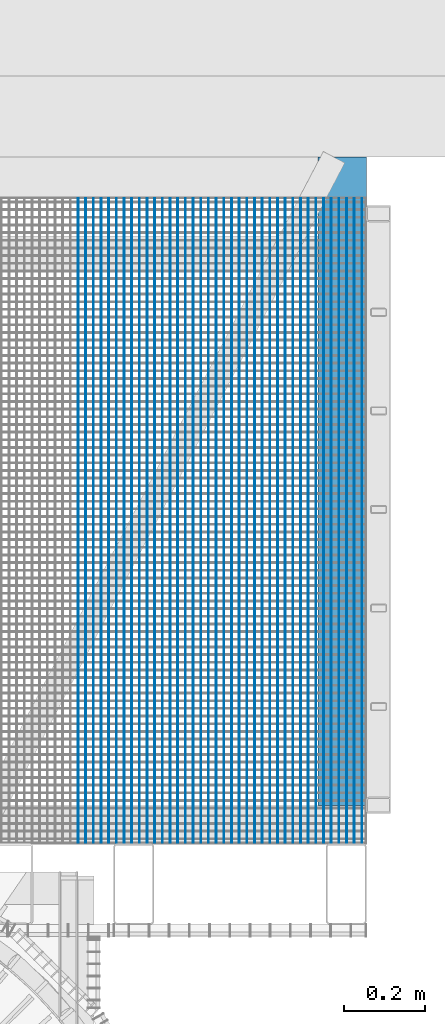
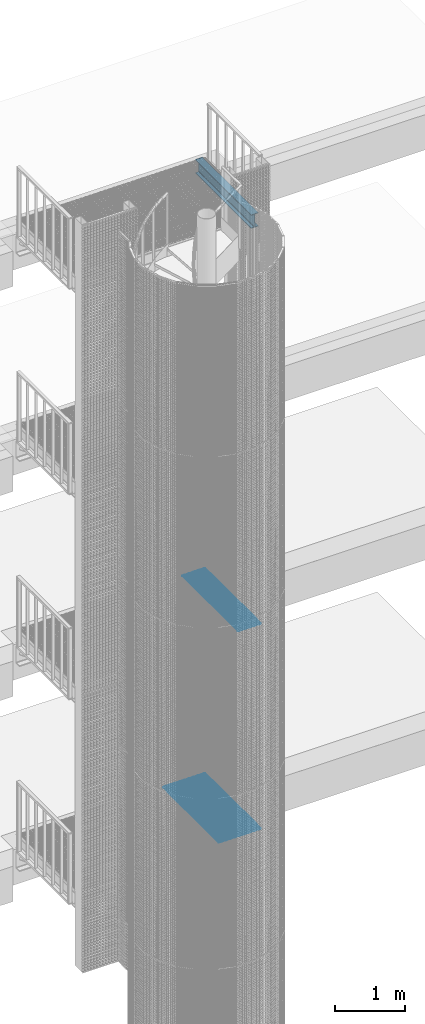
# One storey, part 102 of 1183: 60 beams, 3 elements without a shape of their own.
"""IFC2X3 building model written with IfcOpenShell, lengths in millimetres."""

from ifc_helpers import new_model, si_unit, frame, origin_with_axes, origin_2d_with_axis, place, context, subcontext, project, spatial, rectangle, i_section, extrude, material, type_object, element, aggregate, save


model = new_model("IFC2X3")

# Units and contexts
model_context = context("Model", 3, precision=1e-05, world=origin_with_axes())
body_context = subcontext(model_context, "Body", "Model", "MODEL_VIEW")
ifc_project = project(units=[si_unit("LENGTHUNIT", "METRE", prefix="MILLI"), si_unit("AREAUNIT", "SQUARE_METRE"), si_unit("VOLUMEUNIT", "CUBIC_METRE"), si_unit("MASSUNIT", "GRAM", prefix="KILO"), si_unit("TIMEUNIT", "SECOND"), si_unit("PLANEANGLEUNIT", "RADIAN"), si_unit("SOLIDANGLEUNIT", "STERADIAN"), si_unit("THERMODYNAMICTEMPERATUREUNIT", "DEGREE_CELSIUS"), si_unit("LUMINOUSINTENSITYUNIT", "LUMEN")], contexts=[model_context])

# Site, building, storey
site_placement = place(None, origin_with_axes())
site = spatial("IfcSite", under=ifc_project, at=site_placement, Name="Undefined", CompositionType="ELEMENT")
building_placement = place(site_placement, origin_with_axes())
building = spatial("IfcBuilding", under=site, at=building_placement, Name="Undefined", CompositionType="ELEMENT")
storey_placement = place(building_placement, origin_with_axes())
storey = spatial("IfcBuildingStorey", under=building, at=storey_placement, Name="Undefined", CompositionType="ELEMENT", Elevation=0.0)

# Assembly, beams
assembly_1_placement = place(storey_placement, origin_with_axes())
assembly_1 = element("IfcElementAssembly", 1, at=assembly_1_placement, inside=storey, Name="BORDURE", AssemblyPlace="NOTDEFINED", PredefinedType="NOTDEFINED")
ifc_material = material(Name="STEEL/S235JR")
beam_type_1 = type_object("IfcBeamType", Name="PL2*10", PredefinedType="NOTDEFINED")
beam_1_placement = place(assembly_1_placement, frame((22759.115424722, 1102.00802362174, 10085.0), z_axis=(0.0, 0.0, 1.0), x_axis=(-4.50599999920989e-06, 0.999999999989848, 0.0)))
beam_1 = element("IfcBeam", 2, at=beam_1_placement, type_object=beam_type_1, material=ifc_material, Name="ENTRETOISE", context=body_context, shape_type="SweptSolid", body=[
    extrude(rectangle(XDim=2.0, YDim=10.0, at=origin_2d_with_axis()), frame((1596.0000000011, -1.35186458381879e-18, -7.27595761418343e-12), z_axis=(-1.0, 0.0, 0.0), x_axis=(0.0, -1.0, 0.0)), (0.0, 0.0, 1.0), 1596.0),
])
beam_2_placement = place(assembly_1_placement, frame((22778.1154247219, 1102.00811713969, 10085.0), z_axis=(0.0, 0.0, 1.0), x_axis=(-4.50599999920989e-06, 0.999999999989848, 0.0)))
beam_2 = element("IfcBeam", 3, at=beam_2_placement, type_object=beam_type_1, material=ifc_material, Name="ENTRETOISE", context=body_context, shape_type="SweptSolid", body=[
    extrude(rectangle(XDim=2.0, YDim=10.0, at=origin_2d_with_axis()), frame((1596.0000000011, -1.35186458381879e-18, -7.27595761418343e-12), z_axis=(-1.0, 0.0, 0.0), x_axis=(0.0, -1.0, 0.0)), (0.0, 0.0, 1.0), 1596.0),
])
beam_3_placement = place(assembly_1_placement, frame((22797.1154247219, 1102.00821065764, 10085.0), z_axis=(0.0, 0.0, 1.0), x_axis=(-4.50599999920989e-06, 0.999999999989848, 0.0)))
beam_3 = element("IfcBeam", 4, at=beam_3_placement, type_object=beam_type_1, material=ifc_material, Name="ENTRETOISE", context=body_context, shape_type="SweptSolid", body=[
    extrude(rectangle(XDim=2.0, YDim=10.0, at=origin_2d_with_axis()), frame((1596.0000000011, -1.35186458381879e-18, -7.27595761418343e-12), z_axis=(-1.0, 0.0, 0.0), x_axis=(0.0, -1.0, 0.0)), (0.0, 0.0, 1.0), 1596.0),
])
beam_4_placement = place(assembly_1_placement, frame((22816.1154247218, 1102.00830417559, 10085.0), z_axis=(0.0, 0.0, 1.0), x_axis=(-4.50599999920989e-06, 0.999999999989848, 0.0)))
beam_4 = element("IfcBeam", 5, at=beam_4_placement, type_object=beam_type_1, material=ifc_material, Name="ENTRETOISE", context=body_context, shape_type="SweptSolid", body=[
    extrude(rectangle(XDim=2.0, YDim=10.0, at=origin_2d_with_axis()), frame((1596.0000000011, -1.35186458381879e-18, -7.27595761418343e-12), z_axis=(-1.0, 0.0, 0.0), x_axis=(0.0, -1.0, 0.0)), (0.0, 0.0, 1.0), 1596.0),
])
beam_5_placement = place(assembly_1_placement, frame((22835.1154247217, 1102.00839769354, 10085.0), z_axis=(0.0, 0.0, 1.0), x_axis=(-4.50599999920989e-06, 0.999999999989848, 0.0)))
beam_5 = element("IfcBeam", 6, at=beam_5_placement, type_object=beam_type_1, material=ifc_material, Name="ENTRETOISE", context=body_context, shape_type="SweptSolid", body=[
    extrude(rectangle(XDim=2.0, YDim=10.0, at=origin_2d_with_axis()), frame((1596.0000000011, -1.35186458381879e-18, -7.27595761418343e-12), z_axis=(-1.0, 0.0, 0.0), x_axis=(0.0, -1.0, 0.0)), (0.0, 0.0, 1.0), 1596.0),
])
beam_6_placement = place(assembly_1_placement, frame((22854.1154247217, 1102.00849121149, 10085.0), z_axis=(0.0, 0.0, 1.0), x_axis=(-4.50599999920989e-06, 0.999999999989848, 0.0)))
beam_6 = element("IfcBeam", 7, at=beam_6_placement, type_object=beam_type_1, material=ifc_material, Name="ENTRETOISE", context=body_context, shape_type="SweptSolid", body=[
    extrude(rectangle(XDim=2.0, YDim=10.0, at=origin_2d_with_axis()), frame((1596.0000000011, -1.35186458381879e-18, -7.27595761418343e-12), z_axis=(-1.0, 0.0, 0.0), x_axis=(0.0, -1.0, 0.0)), (0.0, 0.0, 1.0), 1596.0),
])
beam_7_placement = place(assembly_1_placement, frame((22873.1154247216, 1102.00858472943, 10085.0), z_axis=(0.0, 0.0, 1.0), x_axis=(-4.50599999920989e-06, 0.999999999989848, 0.0)))
beam_7 = element("IfcBeam", 8, at=beam_7_placement, type_object=beam_type_1, material=ifc_material, Name="ENTRETOISE", context=body_context, shape_type="SweptSolid", body=[
    extrude(rectangle(XDim=2.0, YDim=10.0, at=origin_2d_with_axis()), frame((1596.0000000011, -1.35186458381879e-18, -7.27595761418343e-12), z_axis=(-1.0, 0.0, 0.0), x_axis=(0.0, -1.0, 0.0)), (0.0, 0.0, 1.0), 1596.0),
])
beam_8_placement = place(assembly_1_placement, frame((22892.1154247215, 1102.00867824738, 10085.0), z_axis=(0.0, 0.0, 1.0), x_axis=(-4.50599999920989e-06, 0.999999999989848, 0.0)))
beam_8 = element("IfcBeam", 9, at=beam_8_placement, type_object=beam_type_1, material=ifc_material, Name="ENTRETOISE", context=body_context, shape_type="SweptSolid", body=[
    extrude(rectangle(XDim=2.0, YDim=10.0, at=origin_2d_with_axis()), frame((1596.0000000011, -1.35186458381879e-18, -7.27595761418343e-12), z_axis=(-1.0, 0.0, 0.0), x_axis=(0.0, -1.0, 0.0)), (0.0, 0.0, 1.0), 1596.0),
])
beam_9_placement = place(assembly_1_placement, frame((22911.1154247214, 1102.00877176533, 10085.0), z_axis=(0.0, 0.0, 1.0), x_axis=(-4.50599999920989e-06, 0.999999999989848, 0.0)))
beam_9 = element("IfcBeam", 10, at=beam_9_placement, type_object=beam_type_1, material=ifc_material, Name="ENTRETOISE", context=body_context, shape_type="SweptSolid", body=[
    extrude(rectangle(XDim=2.0, YDim=10.0, at=origin_2d_with_axis()), frame((1596.0000000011, -1.35186458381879e-18, -7.27595761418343e-12), z_axis=(-1.0, 0.0, 0.0), x_axis=(0.0, -1.0, 0.0)), (0.0, 0.0, 1.0), 1596.0),
])
beam_10_placement = place(assembly_1_placement, frame((22930.1154247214, 1102.00886528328, 10085.0), z_axis=(0.0, 0.0, 1.0), x_axis=(-4.50599999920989e-06, 0.999999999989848, 0.0)))
beam_10 = element("IfcBeam", 11, at=beam_10_placement, type_object=beam_type_1, material=ifc_material, Name="ENTRETOISE", context=body_context, shape_type="SweptSolid", body=[
    extrude(rectangle(XDim=2.0, YDim=10.0, at=origin_2d_with_axis()), frame((1596.0000000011, -1.35186458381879e-18, -7.27595761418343e-12), z_axis=(-1.0, 0.0, 0.0), x_axis=(0.0, -1.0, 0.0)), (0.0, 0.0, 1.0), 1596.0),
])
beam_11_placement = place(assembly_1_placement, frame((22949.1154247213, 1102.00895880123, 10085.0), z_axis=(0.0, 0.0, 1.0), x_axis=(-4.50599999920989e-06, 0.999999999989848, 0.0)))
beam_11 = element("IfcBeam", 12, at=beam_11_placement, type_object=beam_type_1, material=ifc_material, Name="ENTRETOISE", context=body_context, shape_type="SweptSolid", body=[
    extrude(rectangle(XDim=2.0, YDim=10.0, at=origin_2d_with_axis()), frame((1596.0000000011, -1.35186458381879e-18, -7.27595761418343e-12), z_axis=(-1.0, 0.0, 0.0), x_axis=(0.0, -1.0, 0.0)), (0.0, 0.0, 1.0), 1596.0),
])
beam_12_placement = place(assembly_1_placement, frame((22968.1154247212, 1102.00905231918, 10085.0), z_axis=(0.0, 0.0, 1.0), x_axis=(-4.50599999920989e-06, 0.999999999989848, 0.0)))
beam_12 = element("IfcBeam", 13, at=beam_12_placement, type_object=beam_type_1, material=ifc_material, Name="ENTRETOISE", context=body_context, shape_type="SweptSolid", body=[
    extrude(rectangle(XDim=2.0, YDim=10.0, at=origin_2d_with_axis()), frame((1596.0000000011, -1.35186458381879e-18, -7.27595761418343e-12), z_axis=(-1.0, 0.0, 0.0), x_axis=(0.0, -1.0, 0.0)), (0.0, 0.0, 1.0), 1596.0),
])
beam_13_placement = place(assembly_1_placement, frame((22987.1154247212, 1102.00914583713, 10085.0), z_axis=(0.0, 0.0, 1.0), x_axis=(-4.50599999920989e-06, 0.999999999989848, 0.0)))
beam_13 = element("IfcBeam", 14, at=beam_13_placement, type_object=beam_type_1, material=ifc_material, Name="ENTRETOISE", context=body_context, shape_type="SweptSolid", body=[
    extrude(rectangle(XDim=2.0, YDim=10.0, at=origin_2d_with_axis()), frame((1596.0000000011, -1.35186458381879e-18, -7.27595761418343e-12), z_axis=(-1.0, 0.0, 0.0), x_axis=(0.0, -1.0, 0.0)), (0.0, 0.0, 1.0), 1596.0),
])
beam_14_placement = place(assembly_1_placement, frame((23006.1154247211, 1102.00923935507, 10085.0), z_axis=(0.0, 0.0, 1.0), x_axis=(-4.50599999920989e-06, 0.999999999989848, 0.0)))
beam_14 = element("IfcBeam", 15, at=beam_14_placement, type_object=beam_type_1, material=ifc_material, Name="ENTRETOISE", context=body_context, shape_type="SweptSolid", body=[
    extrude(rectangle(XDim=2.0, YDim=10.0, at=origin_2d_with_axis()), frame((1596.0000000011, -1.35186458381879e-18, -7.27595761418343e-12), z_axis=(-1.0, 0.0, 0.0), x_axis=(0.0, -1.0, 0.0)), (0.0, 0.0, 1.0), 1596.0),
])
beam_15_placement = place(assembly_1_placement, frame((23025.115424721, 1102.00933287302, 10085.0), z_axis=(0.0, 0.0, 1.0), x_axis=(-4.50599999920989e-06, 0.999999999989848, 0.0)))
beam_15 = element("IfcBeam", 16, at=beam_15_placement, type_object=beam_type_1, material=ifc_material, Name="ENTRETOISE", context=body_context, shape_type="SweptSolid", body=[
    extrude(rectangle(XDim=2.0, YDim=10.0, at=origin_2d_with_axis()), frame((1596.0000000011, -1.35186458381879e-18, -7.27595761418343e-12), z_axis=(-1.0, 0.0, 0.0), x_axis=(0.0, -1.0, 0.0)), (0.0, 0.0, 1.0), 1596.0),
])
beam_16_placement = place(assembly_1_placement, frame((23044.1154247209, 1102.00942639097, 10085.0), z_axis=(0.0, 0.0, 1.0), x_axis=(-4.50599999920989e-06, 0.999999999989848, 0.0)))
beam_16 = element("IfcBeam", 17, at=beam_16_placement, type_object=beam_type_1, material=ifc_material, Name="ENTRETOISE", context=body_context, shape_type="SweptSolid", body=[
    extrude(rectangle(XDim=2.0, YDim=10.0, at=origin_2d_with_axis()), frame((1596.0000000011, -1.35186458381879e-18, -7.27595761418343e-12), z_axis=(-1.0, 0.0, 0.0), x_axis=(0.0, -1.0, 0.0)), (0.0, 0.0, 1.0), 1596.0),
])
beam_17_placement = place(assembly_1_placement, frame((23063.1154247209, 1102.00951990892, 10085.0), z_axis=(0.0, 0.0, 1.0), x_axis=(-4.50599999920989e-06, 0.999999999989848, 0.0)))
beam_17 = element("IfcBeam", 18, at=beam_17_placement, type_object=beam_type_1, material=ifc_material, Name="ENTRETOISE", context=body_context, shape_type="SweptSolid", body=[
    extrude(rectangle(XDim=2.0, YDim=10.0, at=origin_2d_with_axis()), frame((1596.0000000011, -1.35186458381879e-18, -7.27595761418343e-12), z_axis=(-1.0, 0.0, 0.0), x_axis=(0.0, -1.0, 0.0)), (0.0, 0.0, 1.0), 1596.0),
])
beam_18_placement = place(assembly_1_placement, frame((23082.1154247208, 1102.00961342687, 10085.0), z_axis=(0.0, 0.0, 1.0), x_axis=(-4.50599999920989e-06, 0.999999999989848, 0.0)))
beam_18 = element("IfcBeam", 19, at=beam_18_placement, type_object=beam_type_1, material=ifc_material, Name="ENTRETOISE", context=body_context, shape_type="SweptSolid", body=[
    extrude(rectangle(XDim=2.0, YDim=10.0, at=origin_2d_with_axis()), frame((1596.0000000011, -1.35186458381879e-18, -7.27595761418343e-12), z_axis=(-1.0, 0.0, 0.0), x_axis=(0.0, -1.0, 0.0)), (0.0, 0.0, 1.0), 1596.0),
])
beam_19_placement = place(assembly_1_placement, frame((23101.1154247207, 1102.00970694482, 10085.0), z_axis=(0.0, 0.0, 1.0), x_axis=(-4.50599999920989e-06, 0.999999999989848, 0.0)))
beam_19 = element("IfcBeam", 20, at=beam_19_placement, type_object=beam_type_1, material=ifc_material, Name="ENTRETOISE", context=body_context, shape_type="SweptSolid", body=[
    extrude(rectangle(XDim=2.0, YDim=10.0, at=origin_2d_with_axis()), frame((1596.0000000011, -1.35186458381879e-18, -7.27595761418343e-12), z_axis=(-1.0, 0.0, 0.0), x_axis=(0.0, -1.0, 0.0)), (0.0, 0.0, 1.0), 1596.0),
])
beam_20_placement = place(assembly_1_placement, frame((23120.1154247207, 1102.00980046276, 10085.0), z_axis=(0.0, 0.0, 1.0), x_axis=(-4.50599999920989e-06, 0.999999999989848, 0.0)))
beam_20 = element("IfcBeam", 21, at=beam_20_placement, type_object=beam_type_1, material=ifc_material, Name="ENTRETOISE", context=body_context, shape_type="SweptSolid", body=[
    extrude(rectangle(XDim=2.0, YDim=10.0, at=origin_2d_with_axis()), frame((1596.0000000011, -1.35186458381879e-18, -7.27595761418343e-12), z_axis=(-1.0, 0.0, 0.0), x_axis=(0.0, -1.0, 0.0)), (0.0, 0.0, 1.0), 1596.0),
])
beam_21_placement = place(assembly_1_placement, frame((23139.1154247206, 1102.00989398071, 10085.0), z_axis=(0.0, 0.0, 1.0), x_axis=(-4.50599999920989e-06, 0.999999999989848, 0.0)))
beam_21 = element("IfcBeam", 22, at=beam_21_placement, type_object=beam_type_1, material=ifc_material, Name="ENTRETOISE", context=body_context, shape_type="SweptSolid", body=[
    extrude(rectangle(XDim=2.0, YDim=10.0, at=origin_2d_with_axis()), frame((1596.0000000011, -1.35186458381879e-18, -7.27595761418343e-12), z_axis=(-1.0, 0.0, 0.0), x_axis=(0.0, -1.0, 0.0)), (0.0, 0.0, 1.0), 1596.0),
])
aggregate(assembly_1, [beam_1, beam_2, beam_3, beam_4, beam_5, beam_6, beam_7, beam_8, beam_9, beam_10, beam_11, beam_12, beam_13, beam_14, beam_15, beam_16, beam_17, beam_18, beam_19, beam_20, beam_21])

assembly_2_placement = place(storey_placement, origin_with_axes())
assembly_2 = element("IfcElementAssembly", 23, at=assembly_2_placement, inside=storey, Name="BORDURE", AssemblyPlace="NOTDEFINED", PredefinedType="NOTDEFINED")
beam_22_placement = place(assembly_2_placement, frame((22436.1154247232, 1102.00643381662, 6485.0), z_axis=(0.0, 0.0, 1.0), x_axis=(-4.50599999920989e-06, 0.999999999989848, 0.0)))
beam_22 = element("IfcBeam", 24, at=beam_22_placement, type_object=beam_type_1, material=ifc_material, Name="ENTRETOISE", context=body_context, shape_type="SweptSolid", body=[
    extrude(rectangle(XDim=2.0, YDim=10.0, at=origin_2d_with_axis()), frame((1596.0000000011, -1.35186458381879e-18, -7.27595761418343e-12), z_axis=(-1.0, 0.0, 0.0), x_axis=(0.0, -1.0, 0.0)), (0.0, 0.0, 1.0), 1596.0),
])
beam_23_placement = place(assembly_2_placement, frame((22455.1154247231, 1102.00652733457, 6485.0), z_axis=(0.0, 0.0, 1.0), x_axis=(-4.50599999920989e-06, 0.999999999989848, 0.0)))
beam_23 = element("IfcBeam", 25, at=beam_23_placement, type_object=beam_type_1, material=ifc_material, Name="ENTRETOISE", context=body_context, shape_type="SweptSolid", body=[
    extrude(rectangle(XDim=2.0, YDim=10.0, at=origin_2d_with_axis()), frame((1596.0000000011, -1.35186458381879e-18, -7.27595761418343e-12), z_axis=(-1.0, 0.0, 0.0), x_axis=(0.0, -1.0, 0.0)), (0.0, 0.0, 1.0), 1596.0),
])
beam_24_placement = place(assembly_2_placement, frame((22474.1154247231, 1102.00662085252, 6485.0), z_axis=(0.0, 0.0, 1.0), x_axis=(-4.50599999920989e-06, 0.999999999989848, 0.0)))
beam_24 = element("IfcBeam", 26, at=beam_24_placement, type_object=beam_type_1, material=ifc_material, Name="ENTRETOISE", context=body_context, shape_type="SweptSolid", body=[
    extrude(rectangle(XDim=2.0, YDim=10.0, at=origin_2d_with_axis()), frame((1596.0000000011, -1.35186458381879e-18, -7.27595761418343e-12), z_axis=(-1.0, 0.0, 0.0), x_axis=(0.0, -1.0, 0.0)), (0.0, 0.0, 1.0), 1596.0),
])
beam_25_placement = place(assembly_2_placement, frame((22493.115424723, 1102.00671437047, 6485.0), z_axis=(0.0, 0.0, 1.0), x_axis=(-4.50599999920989e-06, 0.999999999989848, 0.0)))
beam_25 = element("IfcBeam", 27, at=beam_25_placement, type_object=beam_type_1, material=ifc_material, Name="ENTRETOISE", context=body_context, shape_type="SweptSolid", body=[
    extrude(rectangle(XDim=2.0, YDim=10.0, at=origin_2d_with_axis()), frame((1596.0000000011, -1.35186458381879e-18, -7.27595761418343e-12), z_axis=(-1.0, 0.0, 0.0), x_axis=(0.0, -1.0, 0.0)), (0.0, 0.0, 1.0), 1596.0),
])
beam_26_placement = place(assembly_2_placement, frame((22512.1154247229, 1102.00680788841, 6485.0), z_axis=(0.0, 0.0, 1.0), x_axis=(-4.50599999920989e-06, 0.999999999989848, 0.0)))
beam_26 = element("IfcBeam", 28, at=beam_26_placement, type_object=beam_type_1, material=ifc_material, Name="ENTRETOISE", context=body_context, shape_type="SweptSolid", body=[
    extrude(rectangle(XDim=2.0, YDim=10.0, at=origin_2d_with_axis()), frame((1596.0000000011, -1.35186458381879e-18, -7.27595761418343e-12), z_axis=(-1.0, 0.0, 0.0), x_axis=(0.0, -1.0, 0.0)), (0.0, 0.0, 1.0), 1596.0),
])
beam_27_placement = place(assembly_2_placement, frame((22531.1154247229, 1102.00690140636, 6485.0), z_axis=(0.0, 0.0, 1.0), x_axis=(-4.50599999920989e-06, 0.999999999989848, 0.0)))
beam_27 = element("IfcBeam", 29, at=beam_27_placement, type_object=beam_type_1, material=ifc_material, Name="ENTRETOISE", context=body_context, shape_type="SweptSolid", body=[
    extrude(rectangle(XDim=2.0, YDim=10.0, at=origin_2d_with_axis()), frame((1596.0000000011, -1.35186458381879e-18, -7.27595761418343e-12), z_axis=(-1.0, 0.0, 0.0), x_axis=(0.0, -1.0, 0.0)), (0.0, 0.0, 1.0), 1596.0),
])
beam_28_placement = place(assembly_2_placement, frame((22550.1154247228, 1102.00699492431, 6485.0), z_axis=(0.0, 0.0, 1.0), x_axis=(-4.50599999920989e-06, 0.999999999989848, 0.0)))
beam_28 = element("IfcBeam", 30, at=beam_28_placement, type_object=beam_type_1, material=ifc_material, Name="ENTRETOISE", context=body_context, shape_type="SweptSolid", body=[
    extrude(rectangle(XDim=2.0, YDim=10.0, at=origin_2d_with_axis()), frame((1596.0000000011, -1.35186458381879e-18, -7.27595761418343e-12), z_axis=(-1.0, 0.0, 0.0), x_axis=(0.0, -1.0, 0.0)), (0.0, 0.0, 1.0), 1596.0),
])
beam_29_placement = place(assembly_2_placement, frame((22569.1154247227, 1102.00708844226, 6485.0), z_axis=(0.0, 0.0, 1.0), x_axis=(-4.50599999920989e-06, 0.999999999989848, 0.0)))
beam_29 = element("IfcBeam", 31, at=beam_29_placement, type_object=beam_type_1, material=ifc_material, Name="ENTRETOISE", context=body_context, shape_type="SweptSolid", body=[
    extrude(rectangle(XDim=2.0, YDim=10.0, at=origin_2d_with_axis()), frame((1596.0000000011, -1.35186458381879e-18, -7.27595761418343e-12), z_axis=(-1.0, 0.0, 0.0), x_axis=(0.0, -1.0, 0.0)), (0.0, 0.0, 1.0), 1596.0),
])
beam_30_placement = place(assembly_2_placement, frame((22588.1154247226, 1102.00718196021, 6485.0), z_axis=(0.0, 0.0, 1.0), x_axis=(-4.50599999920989e-06, 0.999999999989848, 0.0)))
beam_30 = element("IfcBeam", 32, at=beam_30_placement, type_object=beam_type_1, material=ifc_material, Name="ENTRETOISE", context=body_context, shape_type="SweptSolid", body=[
    extrude(rectangle(XDim=2.0, YDim=10.0, at=origin_2d_with_axis()), frame((1596.0000000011, -1.35186458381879e-18, -7.27595761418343e-12), z_axis=(-1.0, 0.0, 0.0), x_axis=(0.0, -1.0, 0.0)), (0.0, 0.0, 1.0), 1596.0),
])
beam_31_placement = place(assembly_2_placement, frame((22607.1154247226, 1102.00727547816, 6485.0), z_axis=(0.0, 0.0, 1.0), x_axis=(-4.50599999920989e-06, 0.999999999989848, 0.0)))
beam_31 = element("IfcBeam", 33, at=beam_31_placement, type_object=beam_type_1, material=ifc_material, Name="ENTRETOISE", context=body_context, shape_type="SweptSolid", body=[
    extrude(rectangle(XDim=2.0, YDim=10.0, at=origin_2d_with_axis()), frame((1596.0000000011, -1.35186458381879e-18, -7.27595761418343e-12), z_axis=(-1.0, 0.0, 0.0), x_axis=(0.0, -1.0, 0.0)), (0.0, 0.0, 1.0), 1596.0),
])
beam_32_placement = place(assembly_2_placement, frame((22626.1154247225, 1102.0073689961, 6485.0), z_axis=(0.0, 0.0, 1.0), x_axis=(-4.50599999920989e-06, 0.999999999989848, 0.0)))
beam_32 = element("IfcBeam", 34, at=beam_32_placement, type_object=beam_type_1, material=ifc_material, Name="ENTRETOISE", context=body_context, shape_type="SweptSolid", body=[
    extrude(rectangle(XDim=2.0, YDim=10.0, at=origin_2d_with_axis()), frame((1596.0000000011, -1.35186458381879e-18, -7.27595761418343e-12), z_axis=(-1.0, 0.0, 0.0), x_axis=(0.0, -1.0, 0.0)), (0.0, 0.0, 1.0), 1596.0),
])
beam_33_placement = place(assembly_2_placement, frame((22645.1154247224, 1102.00746251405, 6485.0), z_axis=(0.0, 0.0, 1.0), x_axis=(-4.50599999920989e-06, 0.999999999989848, 0.0)))
beam_33 = element("IfcBeam", 35, at=beam_33_placement, type_object=beam_type_1, material=ifc_material, Name="ENTRETOISE", context=body_context, shape_type="SweptSolid", body=[
    extrude(rectangle(XDim=2.0, YDim=10.0, at=origin_2d_with_axis()), frame((1596.0000000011, -1.35186458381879e-18, -7.27595761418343e-12), z_axis=(-1.0, 0.0, 0.0), x_axis=(0.0, -1.0, 0.0)), (0.0, 0.0, 1.0), 1596.0),
])
beam_34_placement = place(assembly_2_placement, frame((22664.1154247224, 1102.007556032, 6485.0), z_axis=(0.0, 0.0, 1.0), x_axis=(-4.50599999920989e-06, 0.999999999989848, 0.0)))
beam_34 = element("IfcBeam", 36, at=beam_34_placement, type_object=beam_type_1, material=ifc_material, Name="ENTRETOISE", context=body_context, shape_type="SweptSolid", body=[
    extrude(rectangle(XDim=2.0, YDim=10.0, at=origin_2d_with_axis()), frame((1596.0000000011, -1.35186458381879e-18, -7.27595761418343e-12), z_axis=(-1.0, 0.0, 0.0), x_axis=(0.0, -1.0, 0.0)), (0.0, 0.0, 1.0), 1596.0),
])
beam_35_placement = place(assembly_2_placement, frame((22683.1154247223, 1102.00764954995, 6485.0), z_axis=(0.0, 0.0, 1.0), x_axis=(-4.50599999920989e-06, 0.999999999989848, 0.0)))
beam_35 = element("IfcBeam", 37, at=beam_35_placement, type_object=beam_type_1, material=ifc_material, Name="ENTRETOISE", context=body_context, shape_type="SweptSolid", body=[
    extrude(rectangle(XDim=2.0, YDim=10.0, at=origin_2d_with_axis()), frame((1596.0000000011, -1.35186458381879e-18, -7.27595761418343e-12), z_axis=(-1.0, 0.0, 0.0), x_axis=(0.0, -1.0, 0.0)), (0.0, 0.0, 1.0), 1596.0),
])
beam_36_placement = place(assembly_2_placement, frame((22702.1154247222, 1102.0077430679, 6485.0), z_axis=(0.0, 0.0, 1.0), x_axis=(-4.50599999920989e-06, 0.999999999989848, 0.0)))
beam_36 = element("IfcBeam", 38, at=beam_36_placement, type_object=beam_type_1, material=ifc_material, Name="ENTRETOISE", context=body_context, shape_type="SweptSolid", body=[
    extrude(rectangle(XDim=2.0, YDim=10.0, at=origin_2d_with_axis()), frame((1596.0000000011, -1.35186458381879e-18, -7.27595761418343e-12), z_axis=(-1.0, 0.0, 0.0), x_axis=(0.0, -1.0, 0.0)), (0.0, 0.0, 1.0), 1596.0),
])
beam_37_placement = place(assembly_2_placement, frame((22721.1154247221, 1102.00783658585, 6485.0), z_axis=(0.0, 0.0, 1.0), x_axis=(-4.50599999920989e-06, 0.999999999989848, 0.0)))
beam_37 = element("IfcBeam", 39, at=beam_37_placement, type_object=beam_type_1, material=ifc_material, Name="ENTRETOISE", context=body_context, shape_type="SweptSolid", body=[
    extrude(rectangle(XDim=2.0, YDim=10.0, at=origin_2d_with_axis()), frame((1596.0000000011, -1.35186458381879e-18, -7.27595761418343e-12), z_axis=(-1.0, 0.0, 0.0), x_axis=(0.0, -1.0, 0.0)), (0.0, 0.0, 1.0), 1596.0),
])
beam_38_placement = place(assembly_2_placement, frame((22740.1154247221, 1102.0079301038, 6485.0), z_axis=(0.0, 0.0, 1.0), x_axis=(-4.50599999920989e-06, 0.999999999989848, 0.0)))
beam_38 = element("IfcBeam", 40, at=beam_38_placement, type_object=beam_type_1, material=ifc_material, Name="ENTRETOISE", context=body_context, shape_type="SweptSolid", body=[
    extrude(rectangle(XDim=2.0, YDim=10.0, at=origin_2d_with_axis()), frame((1596.0000000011, -1.35186458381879e-18, -7.27595761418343e-12), z_axis=(-1.0, 0.0, 0.0), x_axis=(0.0, -1.0, 0.0)), (0.0, 0.0, 1.0), 1596.0),
])
beam_39_placement = place(assembly_2_placement, frame((22759.115424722, 1102.00802362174, 6485.0), z_axis=(0.0, 0.0, 1.0), x_axis=(-4.50599999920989e-06, 0.999999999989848, 0.0)))
beam_39 = element("IfcBeam", 41, at=beam_39_placement, type_object=beam_type_1, material=ifc_material, Name="ENTRETOISE", context=body_context, shape_type="SweptSolid", body=[
    extrude(rectangle(XDim=2.0, YDim=10.0, at=origin_2d_with_axis()), frame((1596.0000000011, -1.35186458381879e-18, -7.27595761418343e-12), z_axis=(-1.0, 0.0, 0.0), x_axis=(0.0, -1.0, 0.0)), (0.0, 0.0, 1.0), 1596.0),
])
beam_40_placement = place(assembly_2_placement, frame((22778.1154247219, 1102.00811713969, 6485.0), z_axis=(0.0, 0.0, 1.0), x_axis=(-4.50599999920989e-06, 0.999999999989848, 0.0)))
beam_40 = element("IfcBeam", 42, at=beam_40_placement, type_object=beam_type_1, material=ifc_material, Name="ENTRETOISE", context=body_context, shape_type="SweptSolid", body=[
    extrude(rectangle(XDim=2.0, YDim=10.0, at=origin_2d_with_axis()), frame((1596.0000000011, -1.35186458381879e-18, -7.27595761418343e-12), z_axis=(-1.0, 0.0, 0.0), x_axis=(0.0, -1.0, 0.0)), (0.0, 0.0, 1.0), 1596.0),
])
beam_41_placement = place(assembly_2_placement, frame((22797.1154247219, 1102.00821065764, 6485.0), z_axis=(0.0, 0.0, 1.0), x_axis=(-4.50599999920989e-06, 0.999999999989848, 0.0)))
beam_41 = element("IfcBeam", 43, at=beam_41_placement, type_object=beam_type_1, material=ifc_material, Name="ENTRETOISE", context=body_context, shape_type="SweptSolid", body=[
    extrude(rectangle(XDim=2.0, YDim=10.0, at=origin_2d_with_axis()), frame((1596.0000000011, -1.35186458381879e-18, -7.27595761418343e-12), z_axis=(-1.0, 0.0, 0.0), x_axis=(0.0, -1.0, 0.0)), (0.0, 0.0, 1.0), 1596.0),
])
beam_42_placement = place(assembly_2_placement, frame((22816.1154247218, 1102.00830417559, 6485.0), z_axis=(0.0, 0.0, 1.0), x_axis=(-4.50599999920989e-06, 0.999999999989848, 0.0)))
beam_42 = element("IfcBeam", 44, at=beam_42_placement, type_object=beam_type_1, material=ifc_material, Name="ENTRETOISE", context=body_context, shape_type="SweptSolid", body=[
    extrude(rectangle(XDim=2.0, YDim=10.0, at=origin_2d_with_axis()), frame((1596.0000000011, -1.35186458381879e-18, -7.27595761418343e-12), z_axis=(-1.0, 0.0, 0.0), x_axis=(0.0, -1.0, 0.0)), (0.0, 0.0, 1.0), 1596.0),
])
beam_43_placement = place(assembly_2_placement, frame((22835.1154247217, 1102.00839769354, 6485.0), z_axis=(0.0, 0.0, 1.0), x_axis=(-4.50599999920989e-06, 0.999999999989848, 0.0)))
beam_43 = element("IfcBeam", 45, at=beam_43_placement, type_object=beam_type_1, material=ifc_material, Name="ENTRETOISE", context=body_context, shape_type="SweptSolid", body=[
    extrude(rectangle(XDim=2.0, YDim=10.0, at=origin_2d_with_axis()), frame((1596.0000000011, -1.35186458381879e-18, -7.27595761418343e-12), z_axis=(-1.0, 0.0, 0.0), x_axis=(0.0, -1.0, 0.0)), (0.0, 0.0, 1.0), 1596.0),
])
beam_44_placement = place(assembly_2_placement, frame((22854.1154247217, 1102.00849121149, 6485.0), z_axis=(0.0, 0.0, 1.0), x_axis=(-4.50599999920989e-06, 0.999999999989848, 0.0)))
beam_44 = element("IfcBeam", 46, at=beam_44_placement, type_object=beam_type_1, material=ifc_material, Name="ENTRETOISE", context=body_context, shape_type="SweptSolid", body=[
    extrude(rectangle(XDim=2.0, YDim=10.0, at=origin_2d_with_axis()), frame((1596.0000000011, -1.35186458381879e-18, -7.27595761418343e-12), z_axis=(-1.0, 0.0, 0.0), x_axis=(0.0, -1.0, 0.0)), (0.0, 0.0, 1.0), 1596.0),
])
beam_45_placement = place(assembly_2_placement, frame((22873.1154247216, 1102.00858472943, 6485.0), z_axis=(0.0, 0.0, 1.0), x_axis=(-4.50599999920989e-06, 0.999999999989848, 0.0)))
beam_45 = element("IfcBeam", 47, at=beam_45_placement, type_object=beam_type_1, material=ifc_material, Name="ENTRETOISE", context=body_context, shape_type="SweptSolid", body=[
    extrude(rectangle(XDim=2.0, YDim=10.0, at=origin_2d_with_axis()), frame((1596.0000000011, -1.35186458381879e-18, -7.27595761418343e-12), z_axis=(-1.0, 0.0, 0.0), x_axis=(0.0, -1.0, 0.0)), (0.0, 0.0, 1.0), 1596.0),
])
beam_46_placement = place(assembly_2_placement, frame((22892.1154247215, 1102.00867824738, 6485.0), z_axis=(0.0, 0.0, 1.0), x_axis=(-4.50599999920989e-06, 0.999999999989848, 0.0)))
beam_46 = element("IfcBeam", 48, at=beam_46_placement, type_object=beam_type_1, material=ifc_material, Name="ENTRETOISE", context=body_context, shape_type="SweptSolid", body=[
    extrude(rectangle(XDim=2.0, YDim=10.0, at=origin_2d_with_axis()), frame((1596.0000000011, -1.35186458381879e-18, -7.27595761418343e-12), z_axis=(-1.0, 0.0, 0.0), x_axis=(0.0, -1.0, 0.0)), (0.0, 0.0, 1.0), 1596.0),
])
beam_47_placement = place(assembly_2_placement, frame((22911.1154247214, 1102.00877176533, 6485.0), z_axis=(0.0, 0.0, 1.0), x_axis=(-4.50599999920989e-06, 0.999999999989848, 0.0)))
beam_47 = element("IfcBeam", 49, at=beam_47_placement, type_object=beam_type_1, material=ifc_material, Name="ENTRETOISE", context=body_context, shape_type="SweptSolid", body=[
    extrude(rectangle(XDim=2.0, YDim=10.0, at=origin_2d_with_axis()), frame((1596.0000000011, -1.35186458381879e-18, -7.27595761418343e-12), z_axis=(-1.0, 0.0, 0.0), x_axis=(0.0, -1.0, 0.0)), (0.0, 0.0, 1.0), 1596.0),
])
beam_48_placement = place(assembly_2_placement, frame((22930.1154247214, 1102.00886528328, 6485.0), z_axis=(0.0, 0.0, 1.0), x_axis=(-4.50599999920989e-06, 0.999999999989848, 0.0)))
beam_48 = element("IfcBeam", 50, at=beam_48_placement, type_object=beam_type_1, material=ifc_material, Name="ENTRETOISE", context=body_context, shape_type="SweptSolid", body=[
    extrude(rectangle(XDim=2.0, YDim=10.0, at=origin_2d_with_axis()), frame((1596.0000000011, -1.35186458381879e-18, -7.27595761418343e-12), z_axis=(-1.0, 0.0, 0.0), x_axis=(0.0, -1.0, 0.0)), (0.0, 0.0, 1.0), 1596.0),
])
beam_49_placement = place(assembly_2_placement, frame((22949.1154247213, 1102.00895880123, 6485.0), z_axis=(0.0, 0.0, 1.0), x_axis=(-4.50599999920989e-06, 0.999999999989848, 0.0)))
beam_49 = element("IfcBeam", 51, at=beam_49_placement, type_object=beam_type_1, material=ifc_material, Name="ENTRETOISE", context=body_context, shape_type="SweptSolid", body=[
    extrude(rectangle(XDim=2.0, YDim=10.0, at=origin_2d_with_axis()), frame((1596.0000000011, -1.35186458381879e-18, -7.27595761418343e-12), z_axis=(-1.0, 0.0, 0.0), x_axis=(0.0, -1.0, 0.0)), (0.0, 0.0, 1.0), 1596.0),
])
beam_50_placement = place(assembly_2_placement, frame((22968.1154247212, 1102.00905231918, 6485.0), z_axis=(0.0, 0.0, 1.0), x_axis=(-4.50599999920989e-06, 0.999999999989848, 0.0)))
beam_50 = element("IfcBeam", 52, at=beam_50_placement, type_object=beam_type_1, material=ifc_material, Name="ENTRETOISE", context=body_context, shape_type="SweptSolid", body=[
    extrude(rectangle(XDim=2.0, YDim=10.0, at=origin_2d_with_axis()), frame((1596.0000000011, -1.35186458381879e-18, -7.27595761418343e-12), z_axis=(-1.0, 0.0, 0.0), x_axis=(0.0, -1.0, 0.0)), (0.0, 0.0, 1.0), 1596.0),
])
beam_51_placement = place(assembly_2_placement, frame((22987.1154247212, 1102.00914583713, 6485.0), z_axis=(0.0, 0.0, 1.0), x_axis=(-4.50599999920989e-06, 0.999999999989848, 0.0)))
beam_51 = element("IfcBeam", 53, at=beam_51_placement, type_object=beam_type_1, material=ifc_material, Name="ENTRETOISE", context=body_context, shape_type="SweptSolid", body=[
    extrude(rectangle(XDim=2.0, YDim=10.0, at=origin_2d_with_axis()), frame((1596.0000000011, -1.35186458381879e-18, -7.27595761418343e-12), z_axis=(-1.0, 0.0, 0.0), x_axis=(0.0, -1.0, 0.0)), (0.0, 0.0, 1.0), 1596.0),
])
beam_52_placement = place(assembly_2_placement, frame((23006.1154247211, 1102.00923935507, 6485.0), z_axis=(0.0, 0.0, 1.0), x_axis=(-4.50599999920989e-06, 0.999999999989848, 0.0)))
beam_52 = element("IfcBeam", 54, at=beam_52_placement, type_object=beam_type_1, material=ifc_material, Name="ENTRETOISE", context=body_context, shape_type="SweptSolid", body=[
    extrude(rectangle(XDim=2.0, YDim=10.0, at=origin_2d_with_axis()), frame((1596.0000000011, -1.35186458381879e-18, -7.27595761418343e-12), z_axis=(-1.0, 0.0, 0.0), x_axis=(0.0, -1.0, 0.0)), (0.0, 0.0, 1.0), 1596.0),
])
beam_53_placement = place(assembly_2_placement, frame((23025.115424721, 1102.00933287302, 6485.0), z_axis=(0.0, 0.0, 1.0), x_axis=(-4.50599999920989e-06, 0.999999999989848, 0.0)))
beam_53 = element("IfcBeam", 55, at=beam_53_placement, type_object=beam_type_1, material=ifc_material, Name="ENTRETOISE", context=body_context, shape_type="SweptSolid", body=[
    extrude(rectangle(XDim=2.0, YDim=10.0, at=origin_2d_with_axis()), frame((1596.0000000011, -1.35186458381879e-18, -7.27595761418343e-12), z_axis=(-1.0, 0.0, 0.0), x_axis=(0.0, -1.0, 0.0)), (0.0, 0.0, 1.0), 1596.0),
])
beam_54_placement = place(assembly_2_placement, frame((23044.1154247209, 1102.00942639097, 6485.0), z_axis=(0.0, 0.0, 1.0), x_axis=(-4.50599999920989e-06, 0.999999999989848, 0.0)))
beam_54 = element("IfcBeam", 56, at=beam_54_placement, type_object=beam_type_1, material=ifc_material, Name="ENTRETOISE", context=body_context, shape_type="SweptSolid", body=[
    extrude(rectangle(XDim=2.0, YDim=10.0, at=origin_2d_with_axis()), frame((1596.0000000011, -1.35186458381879e-18, -7.27595761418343e-12), z_axis=(-1.0, 0.0, 0.0), x_axis=(0.0, -1.0, 0.0)), (0.0, 0.0, 1.0), 1596.0),
])
beam_55_placement = place(assembly_2_placement, frame((23063.1154247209, 1102.00951990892, 6485.0), z_axis=(0.0, 0.0, 1.0), x_axis=(-4.50599999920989e-06, 0.999999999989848, 0.0)))
beam_55 = element("IfcBeam", 57, at=beam_55_placement, type_object=beam_type_1, material=ifc_material, Name="ENTRETOISE", context=body_context, shape_type="SweptSolid", body=[
    extrude(rectangle(XDim=2.0, YDim=10.0, at=origin_2d_with_axis()), frame((1596.0000000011, -1.35186458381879e-18, -7.27595761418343e-12), z_axis=(-1.0, 0.0, 0.0), x_axis=(0.0, -1.0, 0.0)), (0.0, 0.0, 1.0), 1596.0),
])
beam_56_placement = place(assembly_2_placement, frame((23082.1154247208, 1102.00961342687, 6485.0), z_axis=(0.0, 0.0, 1.0), x_axis=(-4.50599999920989e-06, 0.999999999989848, 0.0)))
beam_56 = element("IfcBeam", 58, at=beam_56_placement, type_object=beam_type_1, material=ifc_material, Name="ENTRETOISE", context=body_context, shape_type="SweptSolid", body=[
    extrude(rectangle(XDim=2.0, YDim=10.0, at=origin_2d_with_axis()), frame((1596.0000000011, -1.35186458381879e-18, -7.27595761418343e-12), z_axis=(-1.0, 0.0, 0.0), x_axis=(0.0, -1.0, 0.0)), (0.0, 0.0, 1.0), 1596.0),
])
beam_57_placement = place(assembly_2_placement, frame((23101.1154247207, 1102.00970694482, 6485.0), z_axis=(0.0, 0.0, 1.0), x_axis=(-4.50599999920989e-06, 0.999999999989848, 0.0)))
beam_57 = element("IfcBeam", 59, at=beam_57_placement, type_object=beam_type_1, material=ifc_material, Name="ENTRETOISE", context=body_context, shape_type="SweptSolid", body=[
    extrude(rectangle(XDim=2.0, YDim=10.0, at=origin_2d_with_axis()), frame((1596.0000000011, -1.35186458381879e-18, -7.27595761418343e-12), z_axis=(-1.0, 0.0, 0.0), x_axis=(0.0, -1.0, 0.0)), (0.0, 0.0, 1.0), 1596.0),
])
beam_58_placement = place(assembly_2_placement, frame((23120.1154247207, 1102.00980046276, 6485.0), z_axis=(0.0, 0.0, 1.0), x_axis=(-4.50599999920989e-06, 0.999999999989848, 0.0)))
beam_58 = element("IfcBeam", 60, at=beam_58_placement, type_object=beam_type_1, material=ifc_material, Name="ENTRETOISE", context=body_context, shape_type="SweptSolid", body=[
    extrude(rectangle(XDim=2.0, YDim=10.0, at=origin_2d_with_axis()), frame((1596.0000000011, -1.35186458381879e-18, -7.27595761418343e-12), z_axis=(-1.0, 0.0, 0.0), x_axis=(0.0, -1.0, 0.0)), (0.0, 0.0, 1.0), 1596.0),
])
beam_59_placement = place(assembly_2_placement, frame((23139.1154247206, 1102.00989398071, 6485.0), z_axis=(0.0, 0.0, 1.0), x_axis=(-4.50599999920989e-06, 0.999999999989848, 0.0)))
beam_59 = element("IfcBeam", 61, at=beam_59_placement, type_object=beam_type_1, material=ifc_material, Name="ENTRETOISE", context=body_context, shape_type="SweptSolid", body=[
    extrude(rectangle(XDim=2.0, YDim=10.0, at=origin_2d_with_axis()), frame((1596.0000000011, -1.35186458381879e-18, -7.27595761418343e-12), z_axis=(-1.0, 0.0, 0.0), x_axis=(0.0, -1.0, 0.0)), (0.0, 0.0, 1.0), 1596.0),
])
aggregate(assembly_2, [beam_22, beam_23, beam_24, beam_25, beam_26, beam_27, beam_28, beam_29, beam_30, beam_31, beam_32, beam_33, beam_34, beam_35, beam_36, beam_37, beam_38, beam_39, beam_40, beam_41, beam_42, beam_43, beam_44, beam_45, beam_46, beam_47, beam_48, beam_49, beam_50, beam_51, beam_52, beam_53, beam_54, beam_55, beam_56, beam_57, beam_58, beam_59])

# Assembly, beam
assembly_3_placement = place(storey_placement, origin_with_axes())
assembly_3 = element("IfcElementAssembly", 62, at=assembly_3_placement, inside=storey, AssemblyPlace="NOTDEFINED", PredefinedType="NOTDEFINED")
beam_type_2 = type_object("IfcBeamType", Name="IPE240", PredefinedType="NOTDEFINED")
beam_60_placement = place(assembly_3_placement, frame((23090.1104345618, 1195.00969459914, 17120.0), z_axis=(0.0, 0.0, 1.0), x_axis=(-4.50599999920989e-06, 0.999999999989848, 0.0)))
beam_60 = element("IfcBeam", 63, at=beam_60_placement, type_object=beam_type_2, material=ifc_material, Name="EXISTANTS", context=body_context, shape_type="SweptSolid", body=[
    extrude(i_section(OverallWidth=120.0, OverallDepth=240.0, WebThickness=6.199999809, FlangeThickness=9.800000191, FilletRadius=15.0, at=origin_2d_with_axis()), frame((1604.99832798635, 0.0, 3.63797880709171e-12), z_axis=(-1.0, 0.0, 0.0), x_axis=(0.0, -1.0, 0.0)), (0.0, 0.0, 1.0), 1605.0),
])
aggregate(assembly_3, [beam_60])

save(model, "model.ifc")
